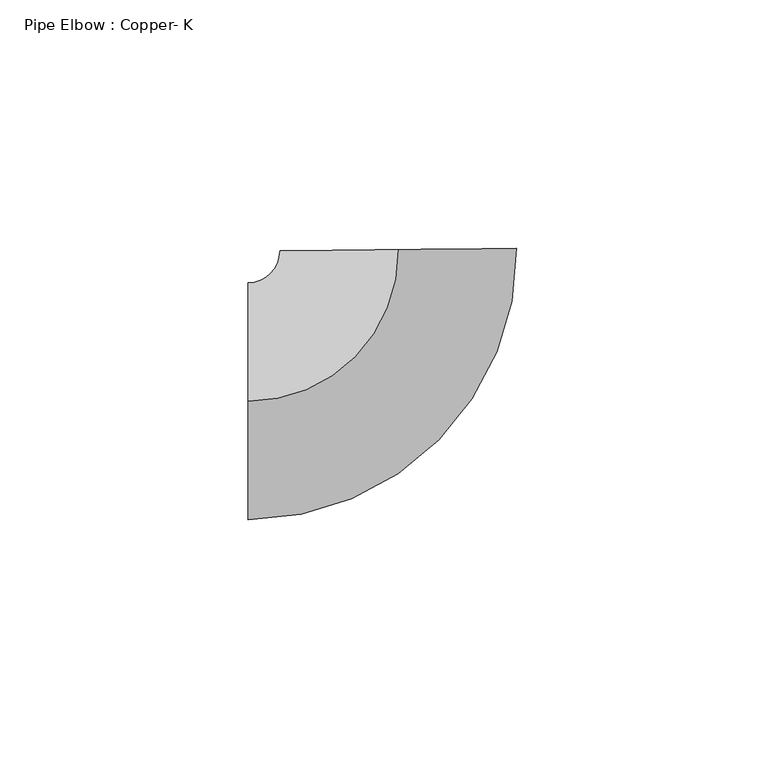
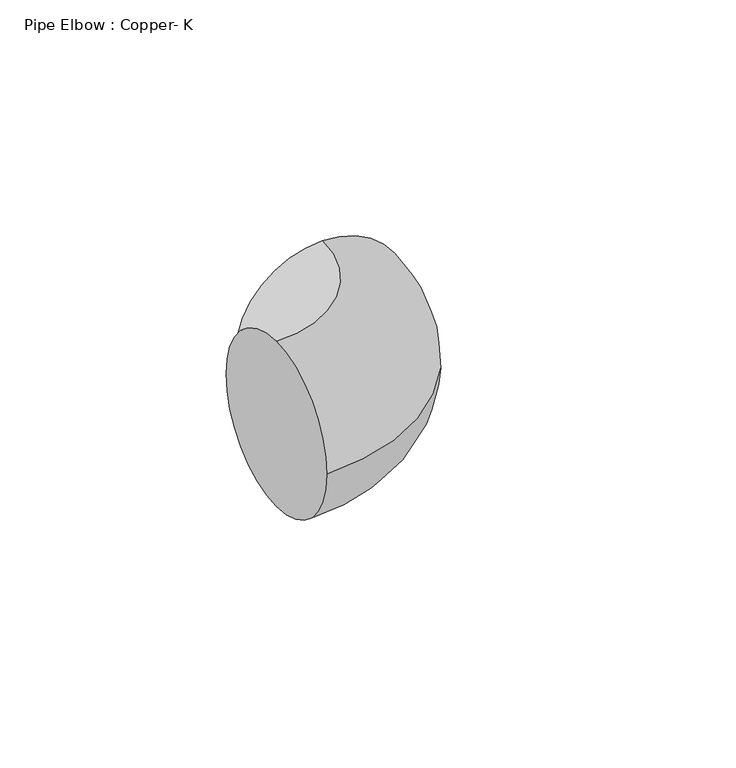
"""IFC4 building model written with IfcOpenShell, lengths in millimetres: pipe fitting geometry, Pipe Elbow : Copper- K."""

from ifc_helpers import new_model, si_unit, point, frame, origin, place, context, project, spatial, circle_curve, ellipse_curve, trimmed, source, transform, mapped, element, save
from ifc_brep_helpers import plane_surface, revolved_surface, advanced_brep


def pipe_elbow_copper_k_ef41bb3a(model_context):
    return source(origin(), model_context, "Body", "AdvancedBrep", [
        advanced_brep(
        [(-30.4783291, 0.0, 23.8125), (-30.4783291, 23.8125, 0.0), (-30.4783291, 0.0, -23.8125), (-30.4783291, -23.8125, 0.0), (-0.3174654, 30.4766757, 23.8125), (23.4937428, 30.7247091, 0.0), (-0.3174654, 30.4766757, -23.8125), (-24.1286736, 30.2286422, 0.0)],
        [
            (0, 1, circle_curve(frame((-30.4783291, 0.0, 0.0), z_axis=(-1.0, 0.0, 0.0), x_axis=(0.0, 1.0, 0.0)), 23.8125)),
            (1, 2, circle_curve(frame((-30.4783291, 0.0, 0.0), z_axis=(-1.0, 0.0, 0.0), x_axis=(0.0, 1.0, 0.0)), 23.8125)),
            (2, 3, circle_curve(frame((-30.4783291, 0.0, 0.0), z_axis=(-1.0, 0.0, 0.0), x_axis=(0.0, 1.0, 0.0)), 23.8125)),
            (3, 0, circle_curve(frame((-30.4783291, 0.0, 0.0), z_axis=(-1.0, 0.0, 0.0), x_axis=(0.0, 1.0, 0.0)), 23.8125)),
            (4, 5, circle_curve(frame((-0.3174654, 30.4766757, 0.0), z_axis=(-0.010416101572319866, 0.9999457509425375, 0.0), x_axis=(-0.9999457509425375, -0.010416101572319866, 0.0)), 23.8125)),
            (5, 6, circle_curve(frame((-0.3174654, 30.4766757, 0.0), z_axis=(-0.010416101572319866, 0.9999457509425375, 0.0), x_axis=(-0.9999457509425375, -0.010416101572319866, 0.0)), 23.8125)),
            (6, 7, circle_curve(frame((-0.3174654, 30.4766757, 0.0), z_axis=(-0.010416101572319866, 0.9999457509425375, 0.0), x_axis=(-0.9999457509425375, -0.010416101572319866, 0.0)), 23.8125)),
            (7, 4, circle_curve(frame((-0.3174654, 30.4766757, 0.0), z_axis=(-0.010416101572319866, 0.9999457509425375, 0.0), x_axis=(-0.9999457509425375, -0.010416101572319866, 0.0)), 23.8125)),
            (7, 1, circle_curve(frame((-30.4783291, 30.1625, 0.0), z_axis=(0.0, 0.0, -1.0), x_axis=(0.0, -1.0, 0.0)), 6.35)),
            (0, 4, circle_curve(frame((-30.4783291, 30.1625, 23.8125), z_axis=(0.0, 0.0, 1.0), x_axis=(0.0, -1.0, 0.0)), 30.1625)),
            (6, 2, circle_curve(frame((-30.4783291, 30.1625, -23.8125), z_axis=(0.0, 0.0, -1.0), x_axis=(0.0, -1.0, 0.0)), 30.1625)),
            (5, 3, circle_curve(frame((-30.4783291, 30.1625, 0.0), z_axis=(0.0, 0.0, -1.0), x_axis=(0.0, -1.0, 0.0)), 53.975)),
        ],
        [
            plane_surface(frame((-30.4783291, 0.0, 0.0), z_axis=(-1.0, 0.0, 0.0), x_axis=(0.0, 0.0, 1.0))),
            plane_surface(frame((-0.3174654, 30.4766757, 0.0), z_axis=(-0.01041610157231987, 0.9999457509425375, 0.0), x_axis=(0.0, 0.0, 1.0))),
            revolved_surface(trimmed(ellipse_curve(frame((-30.4783291, 0.0, 0.0), z_axis=(-1.0, 0.0, 0.0), x_axis=(0.0, 1.0, 0.0)), 23.8125, 23.8125), [point((-30.4783291, 0.0, 23.8125))], [point((-30.4783291, 23.8125, 0.0))], True, "CARTESIAN"), (-30.4783291, 30.1625, 0.0), (0.0, 0.0, 1.0)),
            revolved_surface(trimmed(ellipse_curve(frame((-30.4783291, 0.0, 0.0), z_axis=(-1.0, 0.0, 0.0), x_axis=(0.0, 1.0, 0.0)), 23.8125, 23.8125), [point((-30.4783291, 23.8125, 0.0))], [point((-30.4783291, 0.0, -23.8125))], True, "CARTESIAN"), (-30.4783291, 30.1625, 0.0), (0.0, 0.0, 1.0)),
            revolved_surface(trimmed(ellipse_curve(frame((-30.4783291, 0.0, 0.0), z_axis=(-1.0, 0.0, 0.0), x_axis=(0.0, 1.0, 0.0)), 23.8125, 23.8125), [point((-30.4783291, 0.0, -23.8125))], [point((-30.4783291, -23.8125, 0.0))], True, "CARTESIAN"), (-30.4783291, 30.1625, 0.0), (0.0, 0.0, 1.0)),
            revolved_surface(trimmed(ellipse_curve(frame((-30.4783291, 0.0, 0.0), z_axis=(-1.0, 0.0, 0.0), x_axis=(0.0, 1.0, 0.0)), 23.8125, 23.8125), [point((-30.4783291, -23.8125, 0.0))], [point((-30.4783291, 0.0, 23.8125))], True, "CARTESIAN"), (-30.4783291, 30.1625, 0.0), (0.0, 0.0, 1.0)),
        ],
        [
            (0, [[1, 2, 3, 4]]),
            (1, [[5, 6, 7, 8]]),
            (2, [[9, -1, 10, -8]]),
            (3, [[11, -2, -9, -7]]),
            (4, [[12, -3, -11, -6]]),
            (5, [[-10, -4, -12, -5]]),
        ],
    ),
        advanced_brep(
        [(-30.4783291, 0.0, 23.8125), (-30.4783291, 23.8125, 0.0), (-30.4783291, 0.0, -23.8125), (-30.4783291, -23.8125, 0.0), (-0.3174654, 30.4766757, 23.8125), (23.4937428, 30.7247091, 0.0), (-0.3174654, 30.4766757, -23.8125), (-24.1286736, 30.2286422, 0.0)],
        [
            (0, 1, circle_curve(frame((-30.4783291, 0.0, 0.0), z_axis=(-1.0, 0.0, 0.0), x_axis=(0.0, 1.0, 0.0)), 23.8125)),
            (1, 2, circle_curve(frame((-30.4783291, 0.0, 0.0), z_axis=(-1.0, 0.0, 0.0), x_axis=(0.0, 1.0, 0.0)), 23.8125)),
            (2, 3, circle_curve(frame((-30.4783291, 0.0, 0.0), z_axis=(-1.0, 0.0, 0.0), x_axis=(0.0, 1.0, 0.0)), 23.8125)),
            (3, 0, circle_curve(frame((-30.4783291, 0.0, 0.0), z_axis=(-1.0, 0.0, 0.0), x_axis=(0.0, 1.0, 0.0)), 23.8125)),
            (4, 5, circle_curve(frame((-0.3174654, 30.4766757, 0.0), z_axis=(-0.010416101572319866, 0.9999457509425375, 0.0), x_axis=(-0.9999457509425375, -0.010416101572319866, 0.0)), 23.8125)),
            (5, 6, circle_curve(frame((-0.3174654, 30.4766757, 0.0), z_axis=(-0.010416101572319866, 0.9999457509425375, 0.0), x_axis=(-0.9999457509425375, -0.010416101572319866, 0.0)), 23.8125)),
            (6, 7, circle_curve(frame((-0.3174654, 30.4766757, 0.0), z_axis=(-0.010416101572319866, 0.9999457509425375, 0.0), x_axis=(-0.9999457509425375, -0.010416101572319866, 0.0)), 23.8125)),
            (7, 4, circle_curve(frame((-0.3174654, 30.4766757, 0.0), z_axis=(-0.010416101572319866, 0.9999457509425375, 0.0), x_axis=(-0.9999457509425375, -0.010416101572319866, 0.0)), 23.8125)),
            (7, 1, circle_curve(frame((-30.4783291, 30.1625, 0.0), z_axis=(0.0, 0.0, -1.0), x_axis=(0.0, -1.0, 0.0)), 6.35)),
            (0, 4, circle_curve(frame((-30.4783291, 30.1625, 23.8125), z_axis=(0.0, 0.0, 1.0), x_axis=(0.0, -1.0, 0.0)), 30.1625)),
            (6, 2, circle_curve(frame((-30.4783291, 30.1625, -23.8125), z_axis=(0.0, 0.0, -1.0), x_axis=(0.0, -1.0, 0.0)), 30.1625)),
            (5, 3, circle_curve(frame((-30.4783291, 30.1625, 0.0), z_axis=(0.0, 0.0, -1.0), x_axis=(0.0, -1.0, 0.0)), 53.975)),
        ],
        [
            plane_surface(frame((-30.4783291, 0.0, 0.0), z_axis=(-1.0, 0.0, 0.0), x_axis=(0.0, 0.0, 1.0))),
            plane_surface(frame((-0.3174654, 30.4766757, 0.0), z_axis=(-0.01041610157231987, 0.9999457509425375, 0.0), x_axis=(0.0, 0.0, 1.0))),
            revolved_surface(trimmed(ellipse_curve(frame((-30.4783291, 0.0, 0.0), z_axis=(-1.0, 0.0, 0.0), x_axis=(0.0, 1.0, 0.0)), 23.8125, 23.8125), [point((-30.4783291, 0.0, 23.8125))], [point((-30.4783291, 23.8125, 0.0))], True, "CARTESIAN"), (-30.4783291, 30.1625, 0.0), (0.0, 0.0, 1.0)),
            revolved_surface(trimmed(ellipse_curve(frame((-30.4783291, 0.0, 0.0), z_axis=(-1.0, 0.0, 0.0), x_axis=(0.0, 1.0, 0.0)), 23.8125, 23.8125), [point((-30.4783291, 23.8125, 0.0))], [point((-30.4783291, 0.0, -23.8125))], True, "CARTESIAN"), (-30.4783291, 30.1625, 0.0), (0.0, 0.0, 1.0)),
            revolved_surface(trimmed(ellipse_curve(frame((-30.4783291, 0.0, 0.0), z_axis=(-1.0, 0.0, 0.0), x_axis=(0.0, 1.0, 0.0)), 23.8125, 23.8125), [point((-30.4783291, 0.0, -23.8125))], [point((-30.4783291, -23.8125, 0.0))], True, "CARTESIAN"), (-30.4783291, 30.1625, 0.0), (0.0, 0.0, 1.0)),
            revolved_surface(trimmed(ellipse_curve(frame((-30.4783291, 0.0, 0.0), z_axis=(-1.0, 0.0, 0.0), x_axis=(0.0, 1.0, 0.0)), 23.8125, 23.8125), [point((-30.4783291, -23.8125, 0.0))], [point((-30.4783291, 0.0, 23.8125))], True, "CARTESIAN"), (-30.4783291, 30.1625, 0.0), (0.0, 0.0, 1.0)),
        ],
        [
            (0, [[1, 2, 3, 4]]),
            (1, [[5, 6, 7, 8]]),
            (2, [[9, -1, 10, -8]]),
            (3, [[11, -2, -9, -7]]),
            (4, [[12, -3, -11, -6]]),
            (5, [[-10, -4, -12, -5]]),
        ],
    ),
    ])


if __name__ == "__main__":
    model = new_model("IFC4")
    model_context = context("Model", 3, world=origin())
    ifc_project = project(units=[si_unit("LENGTHUNIT", "METRE", prefix="MILLI")], contexts=[model_context])
    site = spatial("IfcSite", under=ifc_project)
    building = spatial("IfcBuilding", under=site)
    placement = place(None, origin())
    pipe_elbow_copper_k_shape = pipe_elbow_copper_k_ef41bb3a(model_context)
    element("IfcPipeFitting", 1, ObjectType="Pipe Elbow : Copper- K", at=placement, inside=building, context=model_context, shape_type="MappedRepresentation", body=[
        mapped(pipe_elbow_copper_k_shape, transform((0.0, 0.0, 0.0), x_axis=(1.0, 0.0, 0.0), y_axis=(0.0, 1.0, 0.0), z_axis=(0.0, 0.0, 1.0))),
    ])
    save(model, "model.ifc")
